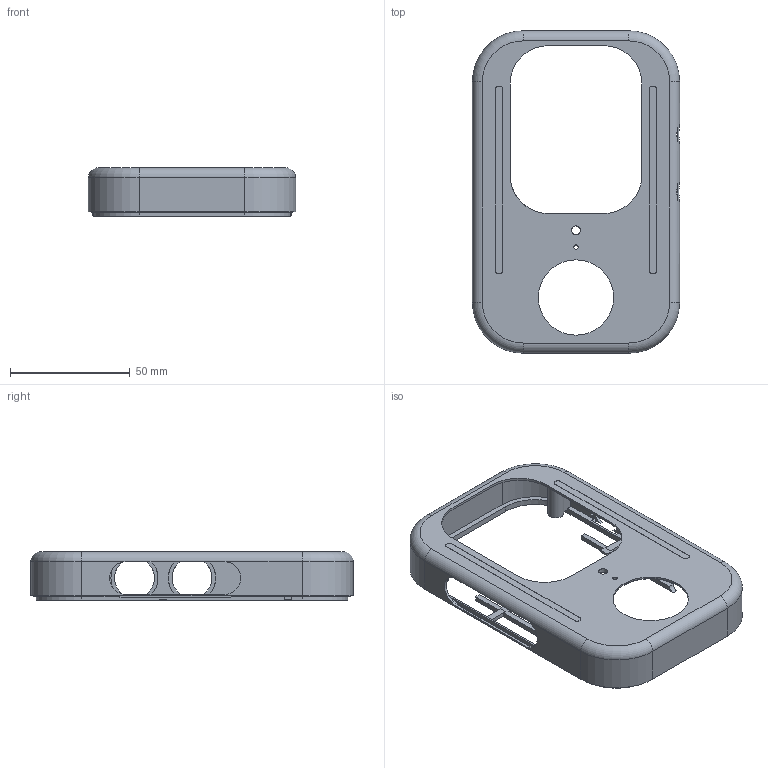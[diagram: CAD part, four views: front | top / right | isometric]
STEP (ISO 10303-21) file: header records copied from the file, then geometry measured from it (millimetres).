
FILE_DESCRIPTION(('Open CASCADE Model'),'2;1');
FILE_NAME('Open CASCADE Shape Model','2026-09-06T11:30:34',('Author'),( 'Open CASCADE'),'Open CASCADE STEP processor 7.7','Open CASCADE 7.7' ,'Unknown');
FILE_SCHEMA(('AUTOMOTIVE_DESIGN { 1 0 10303 214 1 1 1 1 }'));
Length unit declared in the file: millimetre
Products named in the file (1): Open CASCADE STEP translator 7.7 2
Bounding box: 86.4 x 134.4 x 20.27 mm (x, y, z)
Volume: 23541 mm3; surface area: 31595.4 mm2
Topology: 1 solids, 1 shells, 306 faces, 925 edges, 613 vertices
Faces by surface type: plane 205, cylinder 93, torus 8
Full cylindrical faces by diameter (mm): 1.6 x2, 1.8 x1, 3.7 x1, 5.6 x2, 31.4 x2
Entity records: 23342 total; most frequent: CARTESIAN_POINT 5121, DIRECTION 3384, LINE 2133, VECTOR 2133, ORIENTED_EDGE 1850, PCURVE 1850, DEFINITIONAL_REPRESENTATION 1850, EDGE_CURVE 925
